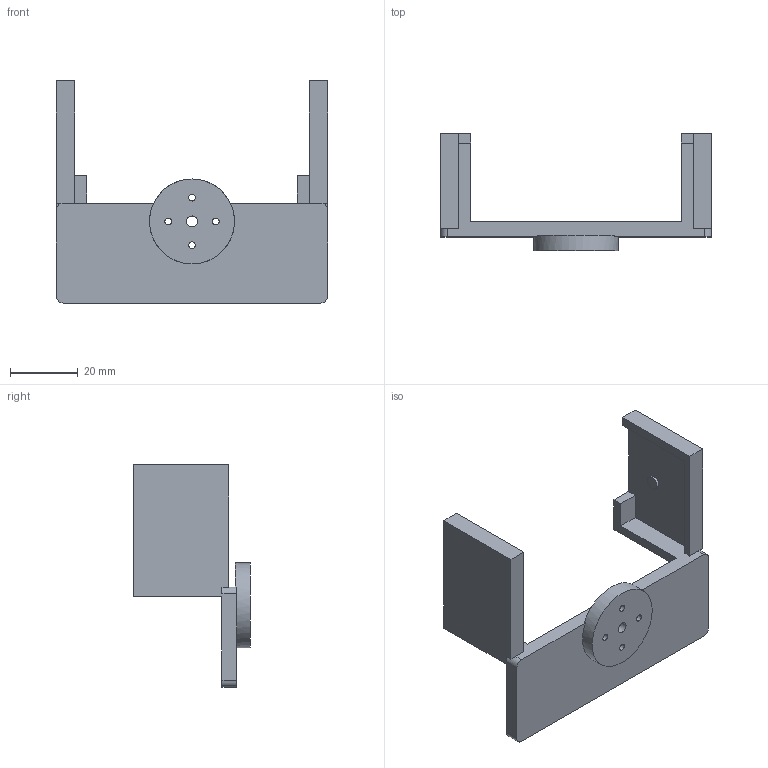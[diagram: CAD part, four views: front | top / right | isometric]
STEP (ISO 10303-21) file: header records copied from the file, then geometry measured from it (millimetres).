
FILE_DESCRIPTION(('Open CASCADE Model'),'2;1');
FILE_NAME('Open CASCADE Shape Model','2026-08-28T21:32:47',('Author'),( 'Open CASCADE'),'Open CASCADE STEP processor 7.8','Open CASCADE 7.8' ,'Unknown');
FILE_SCHEMA(('AUTOMOTIVE_DESIGN { 1 0 10303 214 1 1 1 1 }'));
Length unit declared in the file: millimetre
Products named in the file (1): Open CASCADE STEP translator 7.8 3
Bounding box: 79.71 x 34.4 x 65.31 mm (x, y, z)
Volume: 20118.3 mm3; surface area: 12913.6 mm2
Topology: 1 solids, 1 shells, 48 faces, 130 edges, 86 vertices
Faces by surface type: plane 36, cylinder 12
Full cylindrical faces by diameter (mm): 2 x4, 3.2 x1, 4 x2, 25 x1
Entity records: 3217 total; most frequent: CARTESIAN_POINT 568, DIRECTION 491, LINE 319, VECTOR 319, ORIENTED_EDGE 260, PCURVE 260, DEFINITIONAL_REPRESENTATION 260, EDGE_CURVE 130
